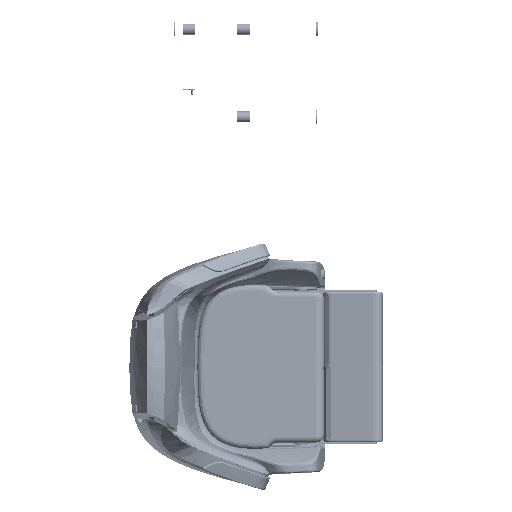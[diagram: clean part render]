
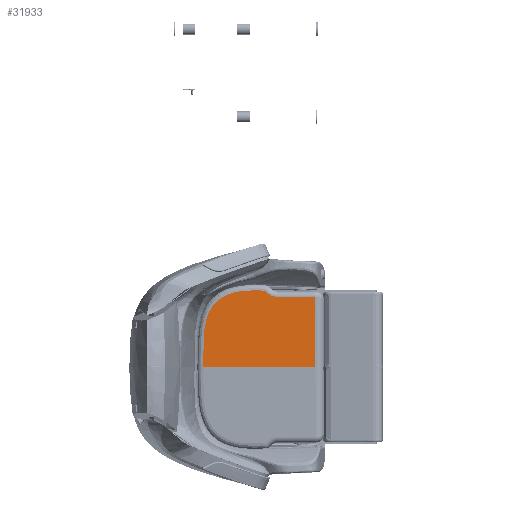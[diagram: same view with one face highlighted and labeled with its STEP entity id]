
A CAD part, top view. The second image highlights one B-rep face of the part: STEP entity #31933.
In plain terms, the highlighted planar face has unit normal (0, 0, 1).
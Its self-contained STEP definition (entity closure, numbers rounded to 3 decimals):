
#4391=B_SPLINE_CURVE_WITH_KNOTS('',3,(#267459,#267460,#267461,#267462,#267463,
#267464,#267465,#267466,#267467,#267468,#267469,#267470,#267471,#267472,
#267473,#267474,#267475,#267476,#267477,#267478,#267479,#267480,#267481,
#267482,#267483,#267484,#267485,#267486,#267487,#267488),.UNSPECIFIED.,
 .F.,.F.,(4,2,2,2,2,2,2,2,2,2,2,2,2,2,4),(0.,0.125,0.25,
0.313,0.375,0.438,0.5,
0.563,0.625,0.688,0.75,
0.813,0.875,0.938,1.),.UNSPECIFIED.);
#17776=FACE_OUTER_BOUND('',#38824,.T.);
#22092=LINE('',#268814,#26050);
#22096=LINE('',#269053,#26054);
#22098=LINE('',#269073,#26056);
#26050=VECTOR('',#109452,1.);
#26054=VECTOR('',#109480,1.);
#26056=VECTOR('',#109486,1.);
#30200=PLANE('',#102664);
#31933=ADVANCED_FACE('PELLE',(#17776),#30200,.F.);
#38824=EDGE_LOOP('',(#46867,#46868,#46869,#46870,#46871));
#46867=ORIENTED_EDGE('',*,*,#85902,.T.);
#46868=ORIENTED_EDGE('',*,*,#85853,.F.);
#46869=ORIENTED_EDGE('',*,*,#85885,.F.);
#46870=ORIENTED_EDGE('',*,*,#85899,.F.);
#46871=ORIENTED_EDGE('',*,*,#85903,.T.);
#74810=VERTEX_POINT('',#267458);
#74811=VERTEX_POINT('',#267489);
#74831=VERTEX_POINT('',#268815);
#74837=VERTEX_POINT('',#268892);
#74839=VERTEX_POINT('',#269072);
#85853=EDGE_CURVE('',#74810,#74811,#4391,.T.);
#85885=EDGE_CURVE('',#74831,#74810,#22092,.T.);
#85899=EDGE_CURVE('',#74837,#74831,#22096,.T.);
#85902=EDGE_CURVE('GENERATED CIRCLE',#74839,#74811,#99500,.T.);
#85903=EDGE_CURVE('LINE',#74837,#74839,#22098,.T.);
#99500=CIRCLE('',#102663,42.987);
#102663=AXIS2_PLACEMENT_3D('',#269071,#109484,#109485);
#102664=AXIS2_PLACEMENT_3D('',#269074,#109487,#109488);
#109452=DIRECTION('',(-1.,0.,0.));
#109480=DIRECTION('',(0.,-1.,0.));
#109484=DIRECTION('',(0.,0.,-1.));
#109485=DIRECTION('',(-1.,0.,0.));
#109486=DIRECTION('',(-1.,0.,0.));
#109487=DIRECTION('',(0.,0.,-1.));
#109488=DIRECTION('',(0.981,0.196,0.));
#267458=CARTESIAN_POINT('',(110.406,0.,262.076));
#267459=CARTESIAN_POINT('',(110.406,0.,262.076));
#267460=CARTESIAN_POINT('',(110.383,13.669,262.076));
#267461=CARTESIAN_POINT('',(110.425,27.315,262.076));
#267462=CARTESIAN_POINT('',(111.101,54.302,262.076));
#267463=CARTESIAN_POINT('',(111.729,67.674,262.076));
#267464=CARTESIAN_POINT('',(113.736,87.123,262.076));
#267465=CARTESIAN_POINT('',(114.586,93.501,262.076));
#267466=CARTESIAN_POINT('',(116.786,105.935,262.076));
#267467=CARTESIAN_POINT('',(118.137,111.993,262.076));
#267468=CARTESIAN_POINT('',(121.47,123.615,262.076));
#267469=CARTESIAN_POINT('',(123.455,129.178,262.076));
#267470=CARTESIAN_POINT('',(128.162,139.623,262.076));
#267471=CARTESIAN_POINT('',(130.885,144.506,262.076));
#267472=CARTESIAN_POINT('',(137.096,153.476,262.076));
#267473=CARTESIAN_POINT('',(140.583,157.556,262.076));
#267474=CARTESIAN_POINT('',(148.325,164.901,262.076));
#267475=CARTESIAN_POINT('',(152.578,168.168,262.076));
#267476=CARTESIAN_POINT('',(161.774,173.916,262.076));
#267477=CARTESIAN_POINT('',(166.723,176.4,262.076));
#267478=CARTESIAN_POINT('',(177.182,180.657,262.076));
#267479=CARTESIAN_POINT('',(182.688,182.439,262.076));
#267480=CARTESIAN_POINT('',(194.082,185.306,262.076));
#267481=CARTESIAN_POINT('',(200.004,186.384,262.076));
#267482=CARTESIAN_POINT('',(212.181,187.95,262.076));
#267483=CARTESIAN_POINT('',(218.424,188.434,262.076));
#267484=CARTESIAN_POINT('',(231.151,188.92,262.076));
#267485=CARTESIAN_POINT('',(237.667,188.928,262.076));
#267486=CARTESIAN_POINT('',(250.774,188.836,262.076));
#267487=CARTESIAN_POINT('',(257.373,188.738,262.076));
#267488=CARTESIAN_POINT('',(263.945,188.624,262.076));
#267489=CARTESIAN_POINT('',(263.945,188.624,262.076));
#268814=CARTESIAN_POINT('',(249.463,0.,262.076));
#268815=CARTESIAN_POINT('',(388.52,0.,262.076));
#268892=CARTESIAN_POINT('',(388.52,172.746,262.076));
#269053=CARTESIAN_POINT('',(388.52,86.373,262.076));
#269071=CARTESIAN_POINT('',(297.307,215.733,262.076));
#269072=CARTESIAN_POINT('',(297.307,172.746,262.076));
#269073=CARTESIAN_POINT('',(342.913,172.746,262.076));
#269074=CARTESIAN_POINT('',(213.604,151.118,262.076));
